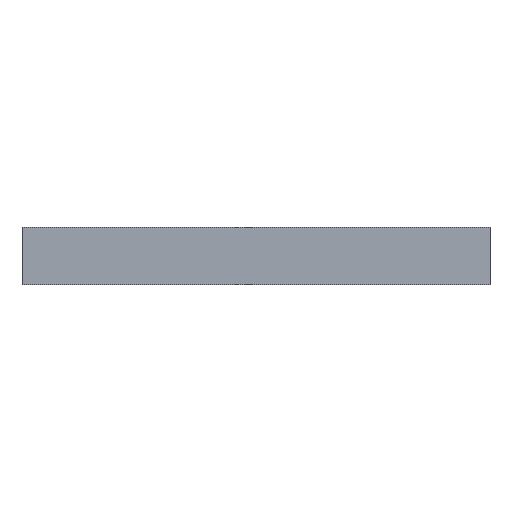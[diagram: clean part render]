
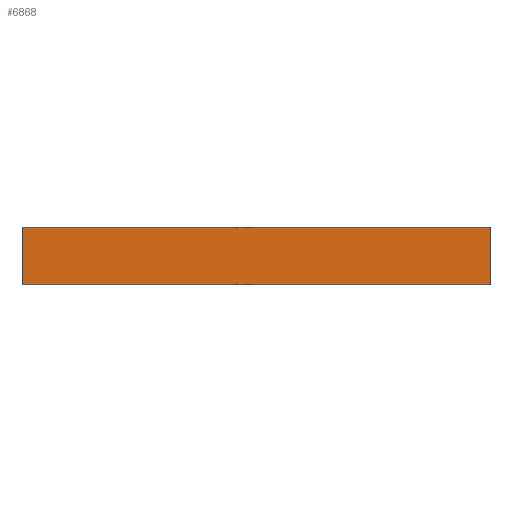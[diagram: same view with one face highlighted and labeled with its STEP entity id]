
A CAD part, front view. The second image highlights one B-rep face of the part: STEP entity #6868.
In plain terms, the highlighted planar face has unit normal (0, -1, 0).
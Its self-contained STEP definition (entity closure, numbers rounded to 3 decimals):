
#6829=CARTESIAN_POINT('',(-194.,-2076.,-24.));
#6830=DIRECTION('',(0.0,-1.0,0.0));
#6831=DIRECTION('',(0.0,0.0,1.0));
#6832=AXIS2_PLACEMENT_3D('',#6829,#6830,#6831);
#6833=PLANE('',#6832);
#6834=CARTESIAN_POINT('',(194.,-2076.,-24.));
#6835=VERTEX_POINT('',#6834);
#6836=CARTESIAN_POINT('',(194.,-2076.,24.));
#6837=VERTEX_POINT('',#6836);
#6838=CARTESIAN_POINT('',(194.,-2076.,-24.));
#6839=DIRECTION('',(0.0,0.0,1.0));
#6840=VECTOR('',#6839,48.0);
#6841=LINE('',#6838,#6840);
#6842=EDGE_CURVE('',#6835,#6837,#6841,.T.);
#6843=ORIENTED_EDGE('',*,*,#6842,.T.);
#6844=CARTESIAN_POINT('',(-194.,-2076.,24.));
#6845=VERTEX_POINT('',#6844);
#6846=CARTESIAN_POINT('',(-194.,-2076.,24.));
#6847=DIRECTION('',(1.0,0.0,0.0));
#6848=VECTOR('',#6847,388.);
#6849=LINE('',#6846,#6848);
#6850=EDGE_CURVE('',#6845,#6837,#6849,.T.);
#6851=ORIENTED_EDGE('',*,*,#6850,.F.);
#6852=CARTESIAN_POINT('',(-194.,-2076.,-24.));
#6853=VERTEX_POINT('',#6852);
#6854=CARTESIAN_POINT('',(-194.,-2076.,-24.));
#6855=DIRECTION('',(0.0,0.0,1.0));
#6856=VECTOR('',#6855,48.0);
#6857=LINE('',#6854,#6856);
#6858=EDGE_CURVE('',#6853,#6845,#6857,.T.);
#6859=ORIENTED_EDGE('',*,*,#6858,.F.);
#6860=CARTESIAN_POINT('',(-194.,-2076.,-24.));
#6861=DIRECTION('',(1.0,0.0,0.0));
#6862=VECTOR('',#6861,388.);
#6863=LINE('',#6860,#6862);
#6864=EDGE_CURVE('',#6853,#6835,#6863,.T.);
#6865=ORIENTED_EDGE('',*,*,#6864,.T.);
#6866=EDGE_LOOP('',(#6843,#6851,#6859,#6865));
#6867=FACE_OUTER_BOUND('',#6866,.T.);
#6868=ADVANCED_FACE('',(#6867),#6833,.T.);
